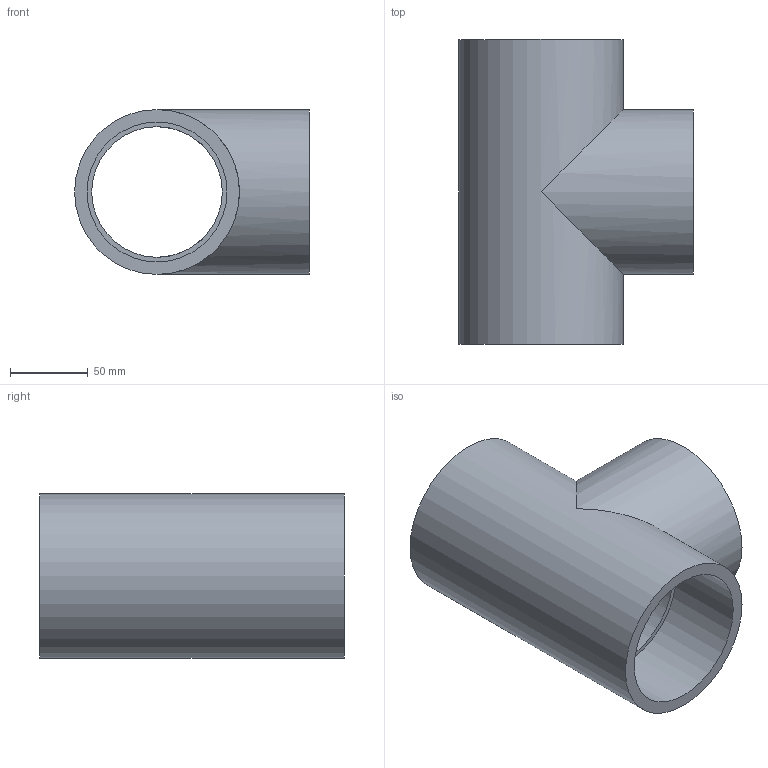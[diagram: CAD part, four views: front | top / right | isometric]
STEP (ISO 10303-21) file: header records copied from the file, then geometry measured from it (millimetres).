
FILE_DESCRIPTION(/* description */ ('PVC ti a 90° incollaggio metrico-filettato BSP femmina'),/* implementation_level */ '2;1');
FILE_NAME(/* name */ 'C:\Users\POLYPIPE\Desktop\DATASET INVENTOR\LIBRERIA EFFAST\RACCORDI 3DxWEB\RGR\3D_RGRTIG\3D_RGRTIG090I.stp',/* time_stamp */ '2018-01-19T17:54:20+01:00',/* author */ ('POLYPIPE'),/* organization */ ('Polypipe Italia s.r.l.'),/* preprocessor_version */ 'ST-DEVELOPER v16.1',/* originating_system */ 'Autodesk Inventor 2016',/* authorisation */ '');
FILE_SCHEMA (('CONFIG_CONTROL_DESIGN'));
Length unit declared in the file: millimetre
Products named in the file (1): 3D_RGRTIG
Bounding box: 151 x 196 x 106 mm (x, y, z)
Volume: 669944.8 mm3; surface area: 156967.1 mm2
Topology: 1 solids, 1 shells, 19 faces, 40 edges, 27 vertices
Faces by surface type: plane 7, cylinder 7, bspline 5
Full cylindrical faces by diameter (mm): 84 x2, 84.926 x1, 90 x2, 106 x2
Entity records: 5745 total; most frequent: CARTESIAN_POINT 5355, DIRECTION 69, ORIENTED_EDGE 64, EDGE_LOOP 33, AXIS2_PLACEMENT_3D 33, EDGE_CURVE 32, VERTEX_POINT 25, FACE_OUTER_BOUND 19
